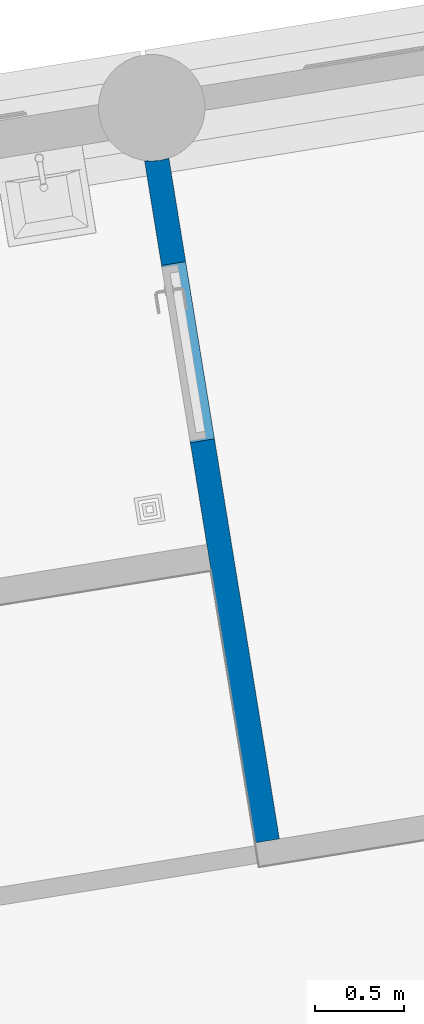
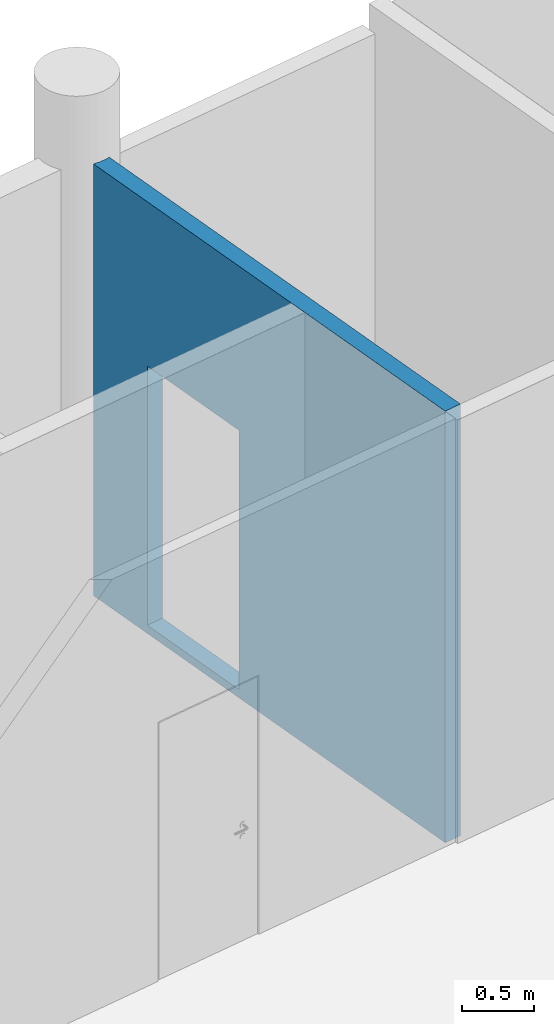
# One storey, part 25 of 38: 1 wall, 1 opening.
"""IFC2X3 building model written with IfcOpenShell, lengths in millimetres."""

from ifc_helpers import new_model, entity, si_unit, converted_unit, derived_unit, direction, frame, frame_2d, origin, origin_with_axes, place, context, subcontext, project, spatial, rectangle, extrude, faceted_brep, material, layer, layer_set, type_object, element, save


model = new_model("IFC2X3")

# Units and contexts
model_context = context("Model", 3, precision=0.01, world=origin(), true_north=direction((6.12323399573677e-17, 1.0)))
plan_context = context("Plan", 3, precision=1e-05, world=origin_with_axes())
body_context = subcontext(model_context, "Body", "Model", "MODEL_VIEW")
ifc_project = project(units=[converted_unit("PLANEANGLEUNIT", "DEGREE", entity("IfcPositiveLengthMeasure", 0.0174532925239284), si_unit("PLANEANGLEUNIT", "RADIAN"), dimensions=[0, 0, 0, 0, 0, 0, 0]), si_unit("AREAUNIT", "SQUARE_METRE"), si_unit("LENGTHUNIT", "METRE", prefix="MILLI"), si_unit("MASSUNIT", "GRAM", prefix="KILO"), si_unit("POWERUNIT", "WATT"), si_unit("PRESSUREUNIT", "PASCAL", prefix="KILO"), si_unit("FORCEUNIT", "NEWTON", prefix="KILO"), si_unit("ELECTRICVOLTAGEUNIT", "VOLT"), si_unit("ELECTRICCURRENTUNIT", "AMPERE"), si_unit("THERMODYNAMICTEMPERATUREUNIT", "DEGREE_CELSIUS"), si_unit("TIMEUNIT", "SECOND"), si_unit("VOLUMEUNIT", "CUBIC_METRE"), derived_unit("LINEARVELOCITYUNIT", [(si_unit("LENGTHUNIT", "METRE"), 1), (si_unit("TIMEUNIT", "SECOND"), -1)]), derived_unit("VOLUMETRICFLOWRATEUNIT", [(si_unit("VOLUMEUNIT", "CUBIC_METRE"), 1), (si_unit("TIMEUNIT", "SECOND"), -1)]), derived_unit("THERMALTRANSMITTANCEUNIT", [(si_unit("POWERUNIT", "WATT"), 1), (si_unit("THERMODYNAMICTEMPERATUREUNIT", "KELVIN"), -1), (si_unit("AREAUNIT", "SQUARE_METRE"), -1)]), derived_unit("SOUNDPRESSUREUNIT", [(si_unit("PRESSUREUNIT", "PASCAL"), 1)])], contexts=[model_context, plan_context])

# Site, building, storey
site_placement = place(None, frame((-0.00071070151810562, 0.00438415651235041, 0.0), z_axis=(0.0, 0.0, 1.0), x_axis=(-0.160236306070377, 0.987078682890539, 0.0)))
site = spatial("IfcSite", under=ifc_project, at=site_placement, Name="Default", CompositionType="ELEMENT")
building_placement = place(site_placement, origin_with_axes())
building = spatial("IfcBuilding", under=site, at=building_placement, Name="TOO", CompositionType="ELEMENT")
storey_placement = place(building_placement, frame((0.0, 0.0, 50999.9999999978), z_axis=(0.0, 0.0, 1.0), x_axis=(1.0, 0.0, 0.0)))
storey = spatial("IfcBuildingStorey", under=building, at=storey_placement, Name="Nivå D-H01", CompositionType="ELEMENT", Elevation=50999.9999999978)

# Wall, opening
ifc_material_1 = material(Name="A240 - Gipsplate")
ifc_layer_1 = layer(ifc_material_1, 12.5)
ifc_layer_2 = layer(ifc_material_1, 12.5)
ifc_layer_3 = layer(ifc_material_1, 12.5)
ifc_material_2 = material(Name="A240 - Stenderverk - Usiolert")
ifc_layer_4 = layer(ifc_material_2, 100.0)
ifc_layer_set = layer_set([ifc_layer_1, ifc_layer_2, ifc_layer_3, ifc_layer_4], Name="Basic Wall:A242 - GGG100/0")
wall_type = type_object("IfcWallType", Name="Basic Wall:A242 - GGG100/0", PredefinedType="STANDARD", material=ifc_layer_set)
wall_placement = place(storey_placement, frame((775702.619644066, -594483.730498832, -70.0), z_axis=(0.0, 0.0, 1.0), x_axis=(1.0, 0.0, 0.0)))
wall = element("IfcWall", 1, at=wall_placement, inside=storey, type_object=wall_type, Name="Basic Wall:A242 - GGG100/0", ObjectType="Basic Wall:A242 - GGG100/0", context=body_context, shape_type="Brep", body=[
    faceted_brep([(0.0, -68.7499999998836, 0.0), (2280.0, -68.7499999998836, 70.0), (2280.0, -68.7499999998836, 2280.0), (3885.0, -68.7499999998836, 0.0), (0.0, -68.7499999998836, 3680.0000000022), (3290.0, -68.7499999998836, 70.0), (3879.19601084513, -68.7499999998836, 70.0), (3885.0, -68.7499999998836, 70.0), (3290.0, -68.7499999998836, 2280.0), (3879.19601084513, -68.75, 372.390477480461), (3879.19601084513, -68.7499999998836, 521.250000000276), (3879.19601084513, -68.7499999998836, 746.875000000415), (3879.19601084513, -68.7499999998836, 972.500000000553), (3879.19601084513, -68.75, 1198.12500000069), (3879.19601084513, -68.7499999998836, 1423.75000000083), (3879.19601084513, -68.7499999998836, 1649.37500000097), (3879.19601084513, -68.7499999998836, 1875.0000000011), (3879.19601084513, -68.7499999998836, 2172.71904504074), (3879.19601084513, -68.7499999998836, 2470.43809008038), (3879.19601084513, -68.7499999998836, 2772.82856756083), (3879.19601084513, -68.75, 3075.2190450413), (3879.19601084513, -68.75, 3377.60952252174), (3879.19601084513, -68.7499999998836, 3680.0000000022), (3290.0, 68.7500000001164, 70.0), (1700.0, 68.7500000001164, 0.0), (2280.0, 68.7500000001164, 70.0), (3885.0, 68.7500000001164, 0.0), (3290.0, 68.7500000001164, 2280.0), (3885.0, 68.7500000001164, 3680.0000000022), (1700.0, 68.7500000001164, 3680.0000000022), (2280.0, 68.7500000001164, 2280.0), (1550.0, 68.7500000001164, 3680.0000000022), (0.0, 68.7500000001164, 3680.0000000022), (0.0, 68.7500000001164, 0.0), (1550.0, 68.7500000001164, 0.0), (3885.0, 58.0614574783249, 3680.0000000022), (3885.0, 58.0614574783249, 3377.60952231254), (3885.0, 58.0614574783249, 3084.56191075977), (3885.0, 58.0614574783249, 2786.84286613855), (3885.0, 58.0614574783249, 2489.12382151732), (3885.0, 58.0614574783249, 2186.73334382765), (3885.0, 58.0614574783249, 1884.34286613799), (3885.0, 58.0614574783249, 1581.95238844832), (3885.0, 58.0614574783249, 1279.56191075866), (3885.0, 58.0614574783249, 977.171433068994), (3885.0, 58.0614574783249, 674.780955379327), (3885.0, 58.0614574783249, 372.390477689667), (3885.0, 58.0614574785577, 70.0), (3876.05084316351, -43.8378780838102, 3680.0000000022), (3875.0, -18.75, 3680.0000000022), (3877.51050438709, 19.9798334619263, 3680.0000000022), (3875.0, -18.75, 70.0), (3876.05576820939, -43.8964963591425, 70.0), (3877.51880693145, 20.0435532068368, 70.0), (3877.23118780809, 17.7703297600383, 1154.55406854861), (3875.0, -18.75, 972.500000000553), (3877.6487985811, 21.0276697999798, 837.601634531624), (3877.46292598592, 19.6126066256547, 2035.53810499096), (3877.89958360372, 22.8594049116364, 523.585716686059), (3877.51050438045, 19.9798334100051, 3402.53024082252), (3877.55781286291, 20.3414992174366, 2926.35952289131), (3875.0, -18.75, 521.250000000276), (3875.0, -18.75, 3075.21904490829), (3875.0, -18.75, 2777.50000000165), (3877.33248564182, 18.5869909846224, 2614.16292162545), (3877.56199859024, 20.3733346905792, 1712.6247992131), (3878.22241167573, 25.1027429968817, 1432.14037008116), (3875.0, -18.7499999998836, 3377.60952245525), (3875.0, -18.75, 367.719044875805), (3877.90292182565, 22.88323360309, 2325.19581166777), (3875.0, -18.75, 2772.82856731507), (3875.0, -18.75, 2470.43808975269), (3875.0, -18.75, 2326.25000000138), (3875.0, -18.75, 963.157134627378), (3875.0, -18.75, 665.438089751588), (3875.0, -18.75, 1423.75000000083), (3875.0, -18.75, 1260.87617950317), (3875.0, -18.75, 1875.0000000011), (3875.0, -18.75, 2168.0476121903), (3875.0, -18.75, 1865.65713462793), (3875.0, -18.75, 1563.26665706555), (3876.14040504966, -44.883168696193, 673.392264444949), (3876.03908487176, -43.6973691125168, 446.820238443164), (3875.79211722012, -40.5363003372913, 258.322309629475), (3876.05084316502, -43.8378781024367, 3475.99189985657), (3876.0508431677, -43.8378781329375, 3226.41428359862), (3876.05084317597, -43.8378782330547, 2924.02380660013), (3876.05084317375, -43.8378782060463, 2621.63332857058), (3876.05084318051, -43.8378782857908, 2321.57856772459), (3875.7542091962, -40.009272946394, 1714.46189583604), (3876.04400247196, -43.7562300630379, 1892.63252218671), (3876.09364669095, -44.3428105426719, 1502.7459115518), (3876.22557822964, -45.8395717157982, 1310.93749983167), (3876.0222828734, -43.4951947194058, 1061.43649430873), (3876.06337893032, -43.986810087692, 2089.01286831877), (3876.08432659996, -44.2337241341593, 859.687499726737)], [[[0, 1, 2]], [[1, 0, 3]], [[2, 4, 0]], [[3, 5, 1]], [[6, 5, 3]], [[3, 7, 6]], [[6, 8, 5]], [[8, 6, 9]], [[8, 9, 10]], [[8, 10, 11]], [[8, 11, 12]], [[8, 12, 13]], [[8, 13, 14]], [[8, 14, 15]], [[8, 15, 16]], [[8, 16, 17]], [[8, 17, 18]], [[8, 18, 19]], [[8, 19, 20]], [[8, 20, 21]], [[8, 21, 22]], [[22, 4, 2]], [[22, 2, 8]], [[23, 24, 25]], [[24, 23, 26]], [[26, 23, 27]], [[27, 28, 26]], [[29, 28, 27]], [[29, 27, 30]], [[25, 24, 30]], [[29, 30, 31]], [[31, 30, 32]], [[33, 32, 30]], [[30, 34, 33]], [[30, 24, 34]], [[3, 0, 33, 34, 24, 26]], [[3, 26, 28, 35, 36, 37, 38, 39, 40, 41, 42, 43, 44, 45, 46, 47, 7]], [[48, 49, 50, 35, 28, 29, 31, 32, 4, 22]], [[32, 33, 0, 4]], [[2, 1, 25, 30]], [[8, 2, 30, 27]], [[5, 8, 27, 23]], [[1, 5, 23, 25]], [[51, 52, 6, 7, 47, 53]], [[54, 55, 56]], [[41, 40, 57]], [[58, 45, 56]], [[37, 59, 60]], [[61, 58, 56]], [[62, 63, 60]], [[39, 38, 64]], [[38, 60, 64]], [[65, 66, 42]], [[59, 50, 49, 67, 62]], [[62, 60, 59]], [[53, 61, 68, 51]], [[53, 47, 46]], [[61, 53, 58]], [[59, 37, 36, 35, 50]], [[58, 46, 45]], [[39, 69, 40]], [[65, 41, 57]], [[64, 60, 63]], [[64, 63, 70, 71, 72]], [[46, 58, 53]], [[56, 55, 73, 74, 61]], [[38, 37, 60]], [[56, 44, 54]], [[54, 75, 76, 55]], [[57, 77, 65]], [[65, 75, 66]], [[69, 57, 40]], [[57, 72, 78, 77]], [[64, 72, 69]], [[66, 54, 43]], [[65, 77, 79, 80, 75]], [[43, 54, 44]], [[56, 45, 44]], [[42, 41, 65]], [[42, 66, 43]], [[54, 66, 75]], [[57, 69, 72]], [[64, 69, 39]], [[81, 11, 10]], [[82, 83, 68]], [[84, 85, 86, 87, 88, 78, 72, 71, 70, 63, 62, 67, 49, 48]], [[89, 79, 90]], [[80, 89, 91]], [[92, 13, 93]], [[9, 82, 10]], [[91, 92, 76]], [[87, 86, 85, 84, 48, 22, 21, 20, 19, 18, 17, 88]], [[88, 94, 78]], [[95, 12, 11]], [[91, 76, 75, 80]], [[83, 82, 9]], [[51, 83, 52]], [[83, 9, 6]], [[81, 95, 11]], [[82, 68, 61, 74]], [[95, 73, 93]], [[81, 74, 95]], [[68, 83, 51]], [[6, 52, 83]], [[94, 79, 77, 78]], [[12, 95, 93]], [[73, 95, 74]], [[92, 14, 13]], [[93, 73, 55, 76]], [[13, 12, 93]], [[81, 82, 74]], [[82, 81, 10]], [[91, 14, 92]], [[76, 92, 93]], [[89, 90, 16]], [[89, 15, 91]], [[80, 79, 89]], [[15, 14, 91]], [[15, 89, 16]], [[17, 16, 94]], [[94, 90, 79]], [[90, 94, 16]], [[17, 94, 88]]]),
])
opening_placement = place(wall_placement, frame((2280.0, -68.7499999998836, 70.0), z_axis=(0.0, 0.0, 1.0), x_axis=(1.0, 0.0, 0.0)))
element("IfcOpeningElement", 2, at=opening_placement, cuts=wall, Name="A200 - Slagdør - Enfløyet:A244 - DI_LSO - 0990 x 2190 mm:1", ObjectType="Opening", context=body_context, shape_type="SweptSolid", body=[
    extrude(rectangle(XDim=2209.99999999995, YDim=1010.0, at=frame_2d((1104.99999999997, 504.999999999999), x_axis=(1.0, 0.0))), frame((0.0, 0.0, 0.0), z_axis=(0.0, 1.0, 0.0), x_axis=(0.0, 0.0, 1.0)), (0.0, 0.0, 1.0), 137.5),
])

save(model, "model.ifc")
